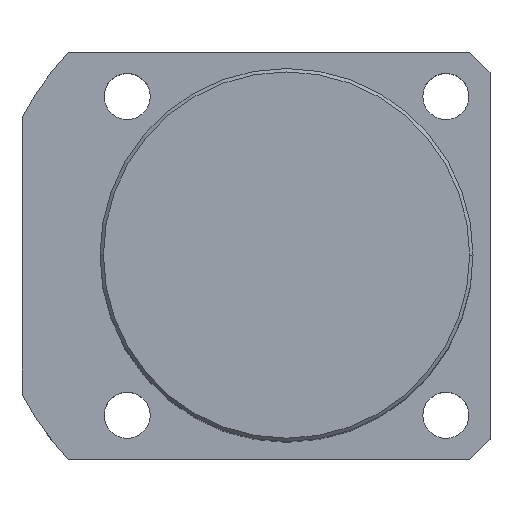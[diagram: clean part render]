
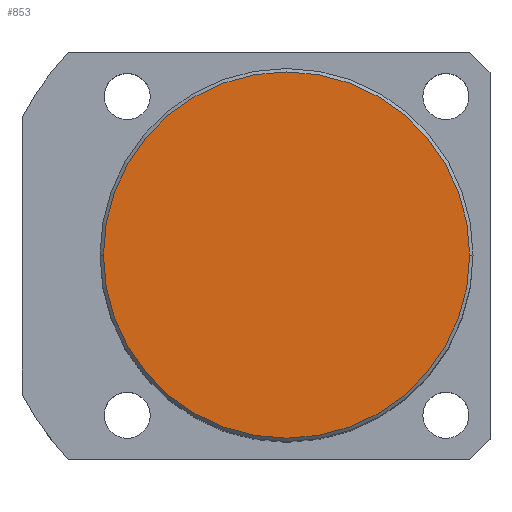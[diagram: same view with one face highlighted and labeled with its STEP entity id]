
A CAD part, top view. The second image highlights one B-rep face of the part: STEP entity #853.
In plain terms, the highlighted planar face has unit normal (0, 0, 1).
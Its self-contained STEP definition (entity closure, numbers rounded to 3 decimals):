
#78 = CARTESIAN_POINT ( 'NONE',  ( 27., 0., 80. ) ) ;
#167 = DIRECTION ( 'NONE',  ( 0., 0., 1. ) ) ;
#195 = VERTEX_POINT ( 'NONE', #78 ) ;
#211 = CARTESIAN_POINT ( 'NONE',  ( 0., 0., 80. ) ) ;
#250 = ORIENTED_EDGE ( 'NONE', *, *, #2133, .T. ) ;
#290 = AXIS2_PLACEMENT_3D ( 'NONE', #211, #1742, #716 ) ;
#363 = AXIS2_PLACEMENT_3D ( 'NONE', #1838, #167, #1156 ) ;
#414 = FACE_OUTER_BOUND ( 'NONE', #603, .T. ) ;
#603 = EDGE_LOOP ( 'NONE', ( #839, #250 ) ) ;
#631 = DIRECTION ( 'NONE',  ( 1., 0., 0. ) ) ;
#716 = DIRECTION ( 'NONE',  ( 1., 0., 0. ) ) ;
#839 = ORIENTED_EDGE ( 'NONE', *, *, #1400, .T. ) ;
#853 = ADVANCED_FACE ( 'NONE', ( #414 ), #1854, .T. ) ;
#1115 = CARTESIAN_POINT ( 'NONE',  ( -27., 0., 80. ) ) ;
#1156 = DIRECTION ( 'NONE',  ( 1., 0., 0. ) ) ;
#1400 = EDGE_CURVE ( 'NONE', #1576, #195, #1962, .T. ) ;
#1435 = AXIS2_PLACEMENT_3D ( 'NONE', #1672, #1830, #631 ) ;
#1576 = VERTEX_POINT ( 'NONE', #1115 ) ;
#1672 = CARTESIAN_POINT ( 'NONE',  ( 0., 0., 80. ) ) ;
#1742 = DIRECTION ( 'NONE',  ( 0., 0., 1. ) ) ;
#1830 = DIRECTION ( 'NONE',  ( 0., 0., 1. ) ) ;
#1838 = CARTESIAN_POINT ( 'NONE',  ( 0., 0., 80. ) ) ;
#1854 = PLANE ( 'NONE',  #363 ) ;
#1859 = CIRCLE ( 'NONE', #1435, 27. ) ;
#1962 = CIRCLE ( 'NONE', #290, 27. ) ;
#2133 = EDGE_CURVE ( 'NONE', #195, #1576, #1859, .T. ) ;
